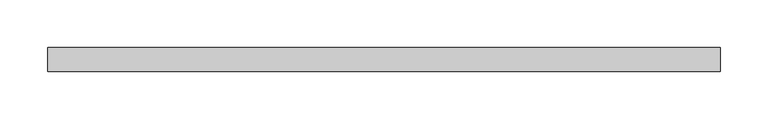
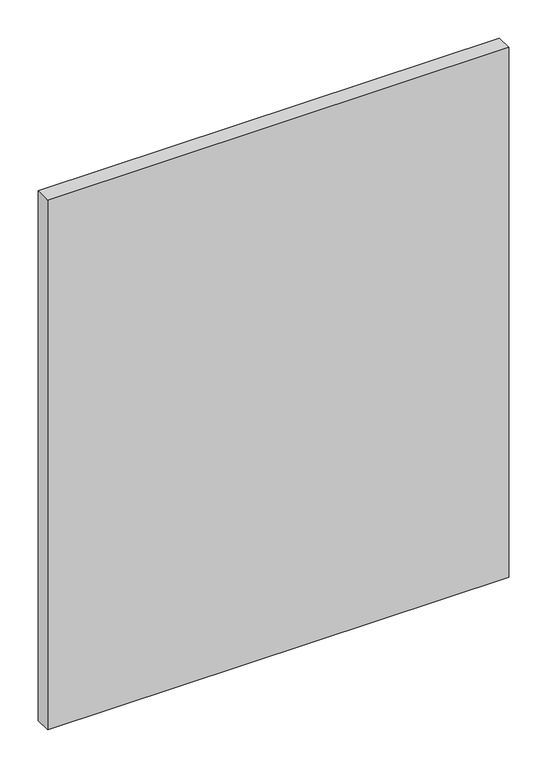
"""IFC4 building model written with IfcOpenShell, lengths in millimetres: plate geometry, 系统嵌板 : 玻璃."""

from ifc_helpers import new_model, si_unit, origin, origin_with_axes, place, context, project, spatial, polyline, outline, extrude, source, transform, mapped, element, save


def plate_cc9028c0(model_context):
    return source(origin(), model_context, "Body", "SweptSolid", [
        extrude(outline(polyline([(350.0000002, -12.5), (-350.0000002, -12.5), (-350.0000002, 12.5), (350.0000002, 12.5), (350.0000002, -12.5)])), origin_with_axes(), (0.0, 0.0, 1.0), 850.0),
    ])


if __name__ == "__main__":
    model = new_model("IFC4")
    model_context = context("Model", 3, world=origin())
    ifc_project = project(units=[si_unit("LENGTHUNIT", "METRE", prefix="MILLI")], contexts=[model_context])
    site = spatial("IfcSite", under=ifc_project)
    building = spatial("IfcBuilding", under=site)
    placement = place(None, origin())
    plate_shape = plate_cc9028c0(model_context)
    element("IfcPlate", 1, ObjectType="系统嵌板 : 玻璃", at=placement, inside=building, context=model_context, shape_type="MappedRepresentation", body=[
        mapped(plate_shape, transform((0.0, 0.0, 0.0), x_axis=(1.0, 0.0, 0.0), y_axis=(0.0, 1.0, 0.0), z_axis=(0.0, 0.0, 1.0))),
    ])
    save(model, "model.ifc")
